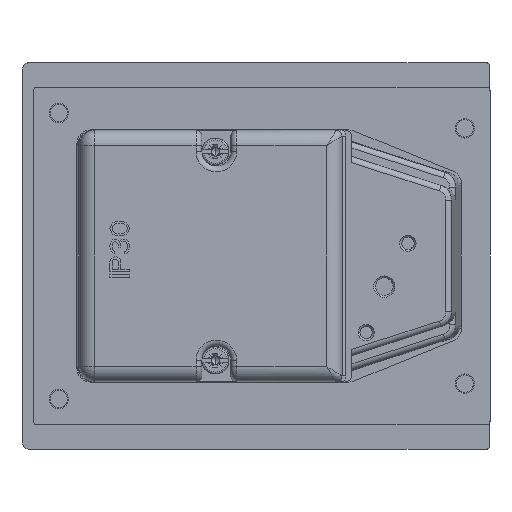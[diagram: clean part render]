
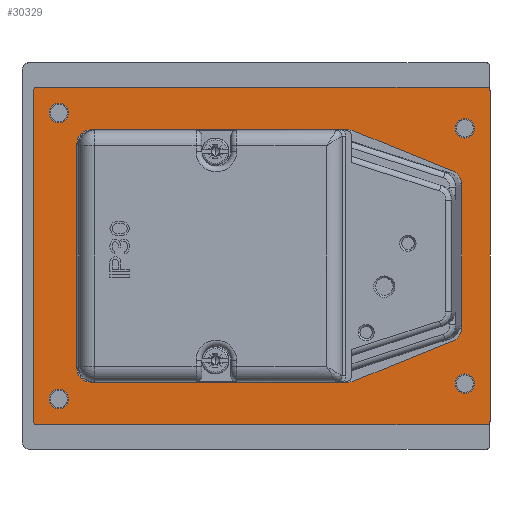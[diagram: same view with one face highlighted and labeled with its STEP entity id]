
A CAD part, left-side view. The second image highlights one B-rep face of the part: STEP entity #30329.
In plain terms, the highlighted planar face has unit normal (-1, 0, 0).
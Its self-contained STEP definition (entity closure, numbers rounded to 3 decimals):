
#8512=CARTESIAN_POINT('',(-9.,-49.02,42.7));
#8513=DIRECTION('',(-1.,0.,0.));
#8514=DIRECTION('',(0.,-1.,0.));
#8515=AXIS2_PLACEMENT_3D('',#8512,#8513,#8514);
#8520=DIRECTION('',(0.,0.,-1.));
#8521=VECTOR('',#8520,85.4);
#8522=CARTESIAN_POINT('',(-9.,-50.02,42.7));
#8523=LINE('3190',#8522,#8521);
#8527=CARTESIAN_POINT('',(-9.,-49.02,-42.7));
#8528=DIRECTION('',(-1.,0.,0.));
#8529=DIRECTION('',(0.,0.,-1.));
#8530=AXIS2_PLACEMENT_3D('',#8527,#8528,#8529);
#8535=DIRECTION('',(0.,1.,0.));
#8536=VECTOR('',#8535,116.02);
#8537=CARTESIAN_POINT('',(-9.,-49.02,-43.7));
#8538=LINE('3191',#8537,#8536);
#8542=CARTESIAN_POINT('',(-9.,67.,-42.7));
#8543=DIRECTION('',(-1.,0.,0.));
#8544=DIRECTION('',(0.,1.,0.));
#8545=AXIS2_PLACEMENT_3D('',#8542,#8543,#8544);
#8550=DIRECTION('',(0.,0.,1.));
#8551=VECTOR('',#8550,85.4);
#8552=CARTESIAN_POINT('',(-9.,68.,-42.7));
#8553=LINE('3192',#8552,#8551);
#8557=CARTESIAN_POINT('',(-9.,67.,42.7));
#8558=DIRECTION('',(-1.,0.,0.));
#8559=DIRECTION('',(0.,0.,1.));
#8560=AXIS2_PLACEMENT_3D('',#8557,#8558,#8559);
#8565=DIRECTION('',(0.,-1.,0.));
#8566=VECTOR('',#8565,116.02);
#8567=CARTESIAN_POINT('',(-9.,67.,43.7));
#8568=LINE('3189',#8567,#8566);
#8572=CARTESIAN_POINT('',(-9.,61.5,-37.));
#8573=DIRECTION('',(-1.,0.,0.));
#8574=DIRECTION('',(0.,0.,-1.));
#8575=AXIS2_PLACEMENT_3D('',#8572,#8573,#8574);
#8580=CARTESIAN_POINT('',(-9.,61.5,-37.));
#8581=DIRECTION('',(-1.,0.,0.));
#8582=DIRECTION('',(0.,0.,1.));
#8583=AXIS2_PLACEMENT_3D('',#8580,#8581,#8582);
#8588=CARTESIAN_POINT('',(-9.,61.5,37.));
#8589=DIRECTION('',(-1.,0.,0.));
#8590=DIRECTION('',(0.,0.,-1.));
#8591=AXIS2_PLACEMENT_3D('',#8588,#8589,#8590);
#8596=CARTESIAN_POINT('',(-9.,61.5,37.));
#8597=DIRECTION('',(-1.,0.,0.));
#8598=DIRECTION('',(0.,0.,1.));
#8599=AXIS2_PLACEMENT_3D('',#8596,#8597,#8598);
#8604=CARTESIAN_POINT('',(-9.,-43.5,-33.));
#8605=DIRECTION('',(-1.,0.,0.));
#8606=DIRECTION('',(0.,0.,-1.));
#8607=AXIS2_PLACEMENT_3D('',#8604,#8605,#8606);
#8612=CARTESIAN_POINT('',(-9.,-43.5,-33.));
#8613=DIRECTION('',(-1.,0.,0.));
#8614=DIRECTION('',(0.,0.,1.));
#8615=AXIS2_PLACEMENT_3D('',#8612,#8613,#8614);
#8620=CARTESIAN_POINT('',(-9.,-43.5,33.));
#8621=DIRECTION('',(-1.,0.,0.));
#8622=DIRECTION('',(0.,0.,-1.));
#8623=AXIS2_PLACEMENT_3D('',#8620,#8621,#8622);
#8628=CARTESIAN_POINT('',(-9.,-43.5,33.));
#8629=DIRECTION('',(-1.,0.,0.));
#8630=DIRECTION('',(0.,0.,1.));
#8631=AXIS2_PLACEMENT_3D('',#8628,#8629,#8630);
#8636=DIRECTION('',(0.,0.,1.));
#8637=VECTOR('',#8636,37.292);
#8638=CARTESIAN_POINT('',(-9.,-42.7,-18.646));
#8639=LINE('3169',#8638,#8637);
#8643=DIRECTION('',(0.,0.926,0.377));
#8644=VECTOR('',#8643,27.731);
#8645=CARTESIAN_POINT('',(-9.,-40.519,21.888));
#8646=LINE('3170',#8645,#8644);
#8650=DIRECTION('',(0.,1.,0.));
#8651=VECTOR('',#8650,66.815);
#8652=CARTESIAN_POINT('',(-9.,-13.515,32.6));
#8653=LINE('3174',#8652,#8651);
#8657=CARTESIAN_POINT('',(-9.,53.3,29.1));
#8658=DIRECTION('',(-1.,0.,0.));
#8659=DIRECTION('',(0.,0.,1.));
#8660=AXIS2_PLACEMENT_3D('',#8657,#8658,#8659);
#8665=DIRECTION('',(0.,0.,-1.));
#8666=VECTOR('',#8665,58.2);
#8667=CARTESIAN_POINT('',(-9.,56.8,29.1));
#8668=LINE('3165',#8667,#8666);
#8672=CARTESIAN_POINT('',(-9.,53.3,-29.1));
#8673=DIRECTION('',(-1.,0.,0.));
#8674=DIRECTION('',(0.,1.,0.));
#8675=AXIS2_PLACEMENT_3D('',#8672,#8673,#8674);
#8680=DIRECTION('',(0.,-1.,0.));
#8681=VECTOR('',#8680,66.815);
#8682=CARTESIAN_POINT('',(-9.,53.3,-32.6));
#8683=LINE('3173',#8682,#8681);
#8687=DIRECTION('',(0.,-0.926,0.377));
#8688=VECTOR('',#8687,27.731);
#8689=CARTESIAN_POINT('',(-9.,-14.834,-32.342));
#8690=LINE('3168',#8689,#8688);
#9194=CARTESIAN_POINT('',(-9.,-13.515,-29.1));
#9195=DIRECTION('',(1.,0.,0.));
#9196=DIRECTION('',(0.,-0.377,-0.926));
#9197=AXIS2_PLACEMENT_3D('',#9194,#9195,#9196);
#9216=CARTESIAN_POINT('',(-9.,-39.2,-18.646));
#9217=DIRECTION('',(1.,0.,0.));
#9218=DIRECTION('',(0.,-1.,0.));
#9219=AXIS2_PLACEMENT_3D('',#9216,#9217,#9218);
#9238=CARTESIAN_POINT('',(-9.,-13.515,29.1));
#9239=DIRECTION('',(1.,0.,0.));
#9240=DIRECTION('',(0.,0.,1.));
#9241=AXIS2_PLACEMENT_3D('',#9238,#9239,#9240);
#9260=CARTESIAN_POINT('',(-9.,-39.2,18.646));
#9261=DIRECTION('',(1.,0.,0.));
#9262=DIRECTION('',(0.,-0.377,0.926));
#9263=AXIS2_PLACEMENT_3D('',#9260,#9261,#9262);
#18457=CARTESIAN_POINT('',(-9.,61.5,-39.5));
#18458=CARTESIAN_POINT('',(-9.,61.5,-34.5));
#18459=VERTEX_POINT('',#18457);
#18460=VERTEX_POINT('',#18458);
#18461=CARTESIAN_POINT('',(-9.,61.5,34.5));
#18462=CARTESIAN_POINT('',(-9.,61.5,39.5));
#18463=VERTEX_POINT('',#18461);
#18464=VERTEX_POINT('',#18462);
#18465=CARTESIAN_POINT('',(-9.,-43.5,-35.5));
#18466=CARTESIAN_POINT('',(-9.,-43.5,-30.5));
#18467=VERTEX_POINT('',#18465);
#18468=VERTEX_POINT('',#18466);
#18469=CARTESIAN_POINT('',(-9.,-43.5,30.5));
#18470=CARTESIAN_POINT('',(-9.,-43.5,35.5));
#18471=VERTEX_POINT('',#18469);
#18472=VERTEX_POINT('',#18470);
#18473=CARTESIAN_POINT('',(-9.,56.8,29.1));
#18474=CARTESIAN_POINT('',(-9.,56.8,-29.1));
#18475=VERTEX_POINT('',#18473);
#18476=VERTEX_POINT('',#18474);
#18477=CARTESIAN_POINT('',(-9.,53.3,-32.6));
#18478=VERTEX_POINT('',#18477);
#18479=CARTESIAN_POINT('',(-9.,53.3,32.6));
#18480=VERTEX_POINT('',#18479);
#18481=CARTESIAN_POINT('',(-9.,-14.834,-32.342));
#18482=CARTESIAN_POINT('',(-9.,-40.519,-21.888));
#18483=VERTEX_POINT('',#18481);
#18484=VERTEX_POINT('',#18482);
#18485=CARTESIAN_POINT('',(-9.,-42.7,-18.646));
#18486=CARTESIAN_POINT('',(-9.,-42.7,18.646));
#18487=VERTEX_POINT('',#18485);
#18488=VERTEX_POINT('',#18486);
#18489=CARTESIAN_POINT('',(-9.,-40.519,21.888));
#18490=CARTESIAN_POINT('',(-9.,-14.834,32.342));
#18491=VERTEX_POINT('',#18489);
#18492=VERTEX_POINT('',#18490);
#18493=CARTESIAN_POINT('',(-9.,-13.515,-32.6));
#18494=VERTEX_POINT('',#18493);
#18495=CARTESIAN_POINT('',(-9.,-13.515,32.6));
#18496=VERTEX_POINT('',#18495);
#18497=CARTESIAN_POINT('',(-9.,-50.02,42.7));
#18498=CARTESIAN_POINT('',(-9.,-49.02,43.7));
#18499=VERTEX_POINT('',#18497);
#18500=VERTEX_POINT('',#18498);
#18505=CARTESIAN_POINT('',(-9.,67.,43.7));
#18506=CARTESIAN_POINT('',(-9.,68.,42.7));
#18507=VERTEX_POINT('',#18505);
#18508=VERTEX_POINT('',#18506);
#18513=CARTESIAN_POINT('',(-9.,-49.02,-43.7));
#18514=CARTESIAN_POINT('',(-9.,-50.02,-42.7));
#18515=VERTEX_POINT('',#18513);
#18516=VERTEX_POINT('',#18514);
#18521=CARTESIAN_POINT('',(-9.,68.,-42.7));
#18522=CARTESIAN_POINT('',(-9.,67.,-43.7));
#18523=VERTEX_POINT('',#18521);
#18524=VERTEX_POINT('',#18522);
#30260=CARTESIAN_POINT('',(-9.,8.99,0.));
#30261=DIRECTION('',(1.,0.,0.));
#30262=DIRECTION('',(0.,0.,-1.));
#30263=AXIS2_PLACEMENT_3D('',#30260,#30261,#30262);
#30264=PLANE('1055',#30263);
#30265=ORIENTED_EDGE('3177',*,*,#18704,.F.);
#30267=ORIENTED_EDGE('3190',*,*,#30266,.T.);
#30268=ORIENTED_EDGE('3183',*,*,#18790,.F.);
#30270=ORIENTED_EDGE('3191',*,*,#30269,.T.);
#30272=ORIENTED_EDGE('3186',*,*,#30271,.F.);
#30274=ORIENTED_EDGE('3192',*,*,#30273,.T.);
#30275=ORIENTED_EDGE('3180',*,*,#30204,.F.);
#30276=ORIENTED_EDGE('3189',*,*,#30241,.T.);
#30277=EDGE_LOOP('1055',(#30265,#30267,#30268,#30270,#30272,#30274,#30275,
#30276));
#30278=FACE_OUTER_BOUND('1055',#30277,.F.);
#30280=ORIENTED_EDGE('3157',*,*,#30279,.T.);
#30282=ORIENTED_EDGE('3158',*,*,#30281,.T.);
#30283=EDGE_LOOP('1055',(#30280,#30282));
#30284=FACE_BOUND('1055',#30283,.F.);
#30286=ORIENTED_EDGE('3159',*,*,#30285,.T.);
#30288=ORIENTED_EDGE('3160',*,*,#30287,.T.);
#30289=EDGE_LOOP('1055',(#30286,#30288));
#30290=FACE_BOUND('1055',#30289,.F.);
#30292=ORIENTED_EDGE('3161',*,*,#30291,.T.);
#30294=ORIENTED_EDGE('3162',*,*,#30293,.T.);
#30295=EDGE_LOOP('1055',(#30292,#30294));
#30296=FACE_BOUND('1055',#30295,.F.);
#30298=ORIENTED_EDGE('3163',*,*,#30297,.T.);
#30300=ORIENTED_EDGE('3164',*,*,#30299,.T.);
#30301=EDGE_LOOP('1055',(#30298,#30300));
#30302=FACE_BOUND('1055',#30301,.F.);
#30304=ORIENTED_EDGE('3169',*,*,#30303,.T.);
#30306=ORIENTED_EDGE('3172',*,*,#30305,.F.);
#30308=ORIENTED_EDGE('3170',*,*,#30307,.T.);
#30310=ORIENTED_EDGE('3175',*,*,#30309,.F.);
#30312=ORIENTED_EDGE('3174',*,*,#30311,.T.);
#30314=ORIENTED_EDGE('3167',*,*,#30313,.T.);
#30316=ORIENTED_EDGE('3165',*,*,#30315,.T.);
#30318=ORIENTED_EDGE('3166',*,*,#30317,.T.);
#30320=ORIENTED_EDGE('3173',*,*,#30319,.T.);
#30322=ORIENTED_EDGE('3176',*,*,#30321,.F.);
#30324=ORIENTED_EDGE('3168',*,*,#30323,.T.);
#30326=ORIENTED_EDGE('3171',*,*,#30325,.F.);
#30327=EDGE_LOOP('1055',(#30304,#30306,#30308,#30310,#30312,#30314,#30316,
#30318,#30320,#30322,#30324,#30326));
#30328=FACE_BOUND('1055',#30327,.F.);
#8516=CIRCLE('3177',#8515,1.);
#8531=CIRCLE('3183',#8530,1.);
#8546=CIRCLE('3186',#8545,1.);
#8561=CIRCLE('3180',#8560,1.);
#8576=CIRCLE('3157',#8575,2.5);
#8584=CIRCLE('3158',#8583,2.5);
#8592=CIRCLE('3159',#8591,2.5);
#8600=CIRCLE('3160',#8599,2.5);
#8608=CIRCLE('3161',#8607,2.5);
#8616=CIRCLE('3162',#8615,2.5);
#8624=CIRCLE('3163',#8623,2.5);
#8632=CIRCLE('3164',#8631,2.5);
#8661=CIRCLE('3167',#8660,3.5);
#8676=CIRCLE('3166',#8675,3.5);
#9198=CIRCLE('3176',#9197,3.5);
#9220=CIRCLE('3171',#9219,3.5);
#9242=CIRCLE('3175',#9241,3.5);
#9264=CIRCLE('3172',#9263,3.5);
#18704=EDGE_CURVE('3177',#18499,#18500,#8516,.T.);
#18790=EDGE_CURVE('3183',#18515,#18516,#8531,.T.);
#30204=EDGE_CURVE('3180',#18507,#18508,#8561,.T.);
#30241=EDGE_CURVE('3189',#18507,#18500,#8568,.T.);
#30266=EDGE_CURVE('3190',#18499,#18516,#8523,.T.);
#30269=EDGE_CURVE('3191',#18515,#18524,#8538,.T.);
#30271=EDGE_CURVE('3186',#18523,#18524,#8546,.T.);
#30273=EDGE_CURVE('3192',#18523,#18508,#8553,.T.);
#30279=EDGE_CURVE('3157',#18459,#18460,#8576,.T.);
#30281=EDGE_CURVE('3158',#18460,#18459,#8584,.T.);
#30285=EDGE_CURVE('3159',#18463,#18464,#8592,.T.);
#30287=EDGE_CURVE('3160',#18464,#18463,#8600,.T.);
#30291=EDGE_CURVE('3161',#18467,#18468,#8608,.T.);
#30293=EDGE_CURVE('3162',#18468,#18467,#8616,.T.);
#30297=EDGE_CURVE('3163',#18471,#18472,#8624,.T.);
#30299=EDGE_CURVE('3164',#18472,#18471,#8632,.T.);
#30303=EDGE_CURVE('3169',#18487,#18488,#8639,.T.);
#30305=EDGE_CURVE('3172',#18491,#18488,#9264,.T.);
#30307=EDGE_CURVE('3170',#18491,#18492,#8646,.T.);
#30309=EDGE_CURVE('3175',#18496,#18492,#9242,.T.);
#30311=EDGE_CURVE('3174',#18496,#18480,#8653,.T.);
#30313=EDGE_CURVE('3167',#18480,#18475,#8661,.T.);
#30315=EDGE_CURVE('3165',#18475,#18476,#8668,.T.);
#30317=EDGE_CURVE('3166',#18476,#18478,#8676,.T.);
#30319=EDGE_CURVE('3173',#18478,#18494,#8683,.T.);
#30321=EDGE_CURVE('3176',#18483,#18494,#9198,.T.);
#30323=EDGE_CURVE('3168',#18483,#18484,#8690,.T.);
#30325=EDGE_CURVE('3171',#18487,#18484,#9220,.T.);
#30329=ADVANCED_FACE('1055',(#30278,#30284,#30290,#30296,#30302,#30328),#30264,
.F.);
